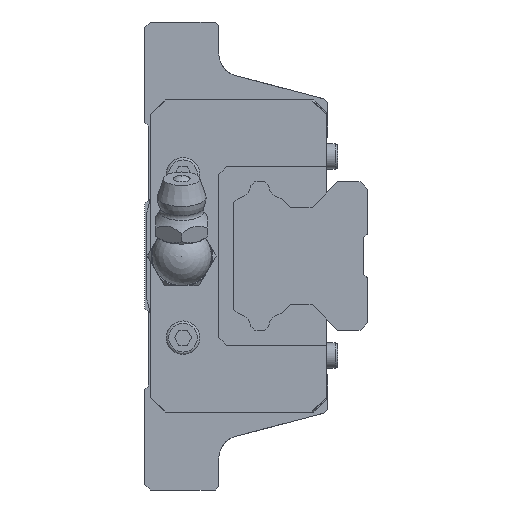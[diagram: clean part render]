
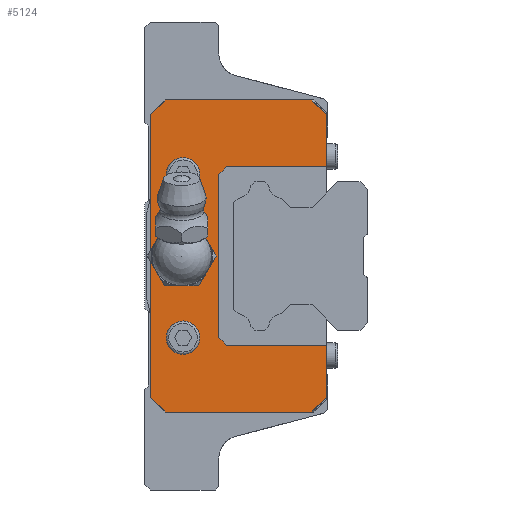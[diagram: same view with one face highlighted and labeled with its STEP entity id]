
A CAD part, left-side view. The second image highlights one B-rep face of the part: STEP entity #5124.
In plain terms, the highlighted planar face has unit normal (-1, 0, 0).
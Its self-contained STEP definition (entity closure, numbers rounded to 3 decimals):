
#240=CIRCLE('',#5565,3.);
#241=CIRCLE('',#5566,2.25);
#242=CIRCLE('',#5567,2.25);
#433=LINE('',#7600,#955);
#454=LINE('',#7645,#976);
#465=LINE('',#7669,#987);
#498=LINE('',#7737,#1020);
#519=LINE('',#7779,#1041);
#542=LINE('',#7834,#1064);
#548=LINE('',#7851,#1070);
#674=LINE('',#8249,#1196);
#676=LINE('',#8252,#1198);
#683=LINE('',#8277,#1205);
#684=LINE('',#8280,#1206);
#685=LINE('',#8281,#1207);
#686=LINE('',#8283,#1208);
#687=LINE('',#8285,#1209);
#955=VECTOR('',#6110,1000.);
#976=VECTOR('',#6139,1000.);
#987=VECTOR('',#6158,1000.);
#1020=VECTOR('',#6211,1000.);
#1041=VECTOR('',#6252,1000.);
#1064=VECTOR('',#6291,1000.);
#1070=VECTOR('',#6303,1000.);
#1196=VECTOR('',#6643,1000.);
#1198=VECTOR('',#6647,1000.);
#1205=VECTOR('',#6670,1000.);
#1206=VECTOR('',#6671,1000.);
#1207=VECTOR('',#6672,1000.);
#1208=VECTOR('',#6673,1000.);
#1209=VECTOR('',#6674,1000.);
#2189=ORIENTED_EDGE('',*,*,#3269,.T.);
#2190=ORIENTED_EDGE('',*,*,#3270,.F.);
#2191=ORIENTED_EDGE('',*,*,#3271,.F.);
#2192=ORIENTED_EDGE('',*,*,#3272,.T.);
#2193=ORIENTED_EDGE('',*,*,#3273,.T.);
#2194=ORIENTED_EDGE('',*,*,#3069,.F.);
#2195=ORIENTED_EDGE('',*,*,#3257,.T.);
#2196=ORIENTED_EDGE('',*,*,#2984,.F.);
#2197=ORIENTED_EDGE('',*,*,#2972,.F.);
#2198=ORIENTED_EDGE('',*,*,#3042,.F.);
#2199=ORIENTED_EDGE('',*,*,#2949,.F.);
#2200=ORIENTED_EDGE('',*,*,#3019,.F.);
#2201=ORIENTED_EDGE('',*,*,#3259,.T.);
#2202=ORIENTED_EDGE('',*,*,#3077,.F.);
#2203=ORIENTED_EDGE('',*,*,#3274,.T.);
#2204=ORIENTED_EDGE('',*,*,#3275,.T.);
#2205=ORIENTED_EDGE('',*,*,#3276,.T.);
#2949=EDGE_CURVE('',#3623,#3624,#433,.T.);
#2972=EDGE_CURVE('',#3643,#3644,#454,.T.);
#2984=EDGE_CURVE('',#3644,#3653,#465,.T.);
#3019=EDGE_CURVE('',#3677,#3623,#498,.T.);
#3042=EDGE_CURVE('',#3624,#3643,#519,.T.);
#3069=EDGE_CURVE('',#3712,#3713,#542,.T.);
#3077=EDGE_CURVE('',#3720,#3721,#548,.T.);
#3257=EDGE_CURVE('',#3712,#3653,#674,.T.);
#3259=EDGE_CURVE('',#3677,#3721,#676,.T.);
#3269=EDGE_CURVE('',#3853,#3853,#240,.T.);
#3270=EDGE_CURVE('',#3854,#3854,#241,.F.);
#3271=EDGE_CURVE('',#3855,#3855,#242,.F.);
#3272=EDGE_CURVE('',#3856,#3857,#683,.T.);
#3273=EDGE_CURVE('',#3857,#3713,#684,.T.);
#3274=EDGE_CURVE('',#3720,#3858,#685,.T.);
#3275=EDGE_CURVE('',#3858,#3859,#686,.T.);
#3276=EDGE_CURVE('',#3859,#3856,#687,.T.);
#3623=VERTEX_POINT('',#7599);
#3624=VERTEX_POINT('',#7601);
#3643=VERTEX_POINT('',#7644);
#3644=VERTEX_POINT('',#7646);
#3653=VERTEX_POINT('',#7670);
#3677=VERTEX_POINT('',#7736);
#3712=VERTEX_POINT('',#7833);
#3713=VERTEX_POINT('',#7835);
#3720=VERTEX_POINT('',#7850);
#3721=VERTEX_POINT('',#7852);
#3853=VERTEX_POINT('',#8272);
#3854=VERTEX_POINT('',#8274);
#3855=VERTEX_POINT('',#8276);
#3856=VERTEX_POINT('',#8278);
#3857=VERTEX_POINT('',#8279);
#3858=VERTEX_POINT('',#8282);
#3859=VERTEX_POINT('',#8284);
#4185=EDGE_LOOP('',(#2189));
#4186=EDGE_LOOP('',(#2190));
#4187=EDGE_LOOP('',(#2191));
#4188=EDGE_LOOP('',(#2192,#2193,#2194,#2195,#2196,#2197,#2198,#2199,#2200,
#2201,#2202,#2203,#2204,#2205));
#4568=FACE_BOUND('',#4185,.T.);
#4569=FACE_BOUND('',#4186,.T.);
#4570=FACE_BOUND('',#4187,.T.);
#4571=FACE_BOUND('',#4188,.T.);
#4878=PLANE('',#5564);
#5124=ADVANCED_FACE('',(#4568,#4569,#4570,#4571),#4878,.F.);
#5564=AXIS2_PLACEMENT_3D('',#8270,#6662,#6663);
#5565=AXIS2_PLACEMENT_3D('',#8271,#6664,#6665);
#5566=AXIS2_PLACEMENT_3D('',#8273,#6666,#6667);
#5567=AXIS2_PLACEMENT_3D('',#8275,#6668,#6669);
#6110=DIRECTION('',(0.,0.707,0.707));
#6139=DIRECTION('',(0.,-0.707,0.707));
#6158=DIRECTION('',(0.,-1.,0.));
#6211=DIRECTION('',(0.,1.,0.));
#6252=DIRECTION('',(0.,0.,1.));
#6291=DIRECTION('',(0.,0.,-1.));
#6303=DIRECTION('',(0.,0.,-1.));
#6643=DIRECTION('',(0.,0.707,0.707));
#6647=DIRECTION('',(0.,-0.707,0.707));
#6662=DIRECTION('',(1.,0.,0.));
#6663=DIRECTION('',(0.,0.,-1.));
#6664=DIRECTION('',(1.,0.,0.));
#6665=DIRECTION('',(0.,0.,-1.));
#6666=DIRECTION('',(1.,0.,0.));
#6667=DIRECTION('',(0.,0.,-1.));
#6668=DIRECTION('',(1.,0.,0.));
#6669=DIRECTION('',(0.,0.,-1.));
#6670=DIRECTION('',(0.,-0.707,0.707));
#6671=DIRECTION('',(0.,-1.,0.));
#6672=DIRECTION('',(0.,1.,0.));
#6673=DIRECTION('',(0.,0.707,0.707));
#6674=DIRECTION('',(0.,0.,1.));
#7599=CARTESIAN_POINT('',(-35.,23.2,-21.));
#7600=CARTESIAN_POINT('',(-35.,23.2,-21.));
#7601=CARTESIAN_POINT('',(-35.,25.2,-19.));
#7644=CARTESIAN_POINT('',(-35.,25.2,19.));
#7645=CARTESIAN_POINT('',(-35.,25.2,19.));
#7646=CARTESIAN_POINT('',(-35.,23.2,21.));
#7669=CARTESIAN_POINT('',(-35.,26.,21.));
#7670=CARTESIAN_POINT('',(-35.,3.517,21.));
#7736=CARTESIAN_POINT('',(-35.,3.517,-21.));
#7737=CARTESIAN_POINT('',(-35.,0.,-21.));
#7779=CARTESIAN_POINT('',(-35.,25.2,-19.));
#7833=CARTESIAN_POINT('',(-35.,1.517,19.));
#7834=CARTESIAN_POINT('',(-35.,1.517,16.));
#7835=CARTESIAN_POINT('',(-35.,1.517,12.));
#7850=CARTESIAN_POINT('',(-35.,1.517,-12.));
#7851=CARTESIAN_POINT('',(-35.,1.517,16.));
#7852=CARTESIAN_POINT('',(-35.,1.517,-19.));
#8249=CARTESIAN_POINT('',(-35.,3.517,21.));
#8252=CARTESIAN_POINT('',(-35.,1.517,-19.));
#8270=CARTESIAN_POINT('',(-35.,0.,0.));
#8271=CARTESIAN_POINT('',(-35.,21.,0.));
#8272=CARTESIAN_POINT('',(-35.,21.,-3.));
#8273=CARTESIAN_POINT('',(-35.,20.817,11.));
#8274=CARTESIAN_POINT('',(-35.,20.817,8.75));
#8275=CARTESIAN_POINT('',(-35.,20.817,-11.));
#8276=CARTESIAN_POINT('',(-35.,20.817,-13.25));
#8277=CARTESIAN_POINT('',(-35.,16.,11.));
#8278=CARTESIAN_POINT('',(-35.,16.,11.));
#8279=CARTESIAN_POINT('',(-35.,15.,12.));
#8280=CARTESIAN_POINT('',(-35.,15.,12.));
#8281=CARTESIAN_POINT('',(-35.,1.517,-12.));
#8282=CARTESIAN_POINT('',(-35.,15.,-12.));
#8283=CARTESIAN_POINT('',(-35.,15.,-12.));
#8284=CARTESIAN_POINT('',(-35.,16.,-11.));
#8285=CARTESIAN_POINT('',(-35.,16.,-11.));
